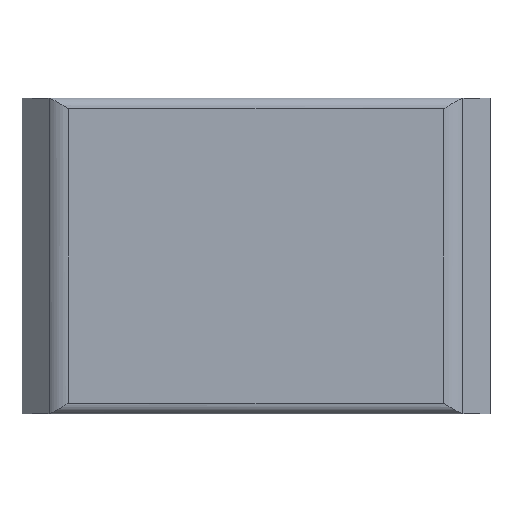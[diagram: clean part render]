
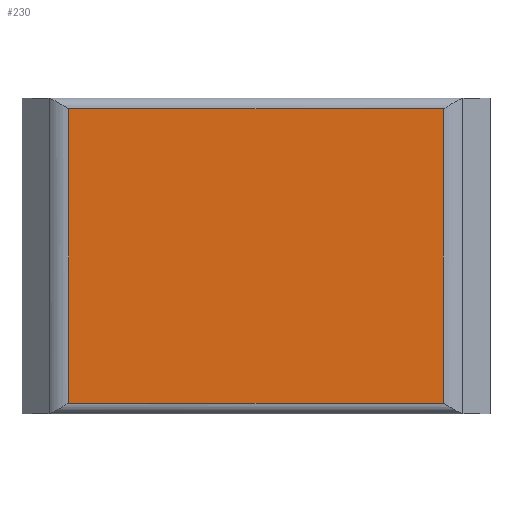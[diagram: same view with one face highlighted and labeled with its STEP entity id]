
A CAD part, front view. The second image highlights one B-rep face of the part: STEP entity #230.
In plain terms, the highlighted planar face has unit normal (0, -1, 0).
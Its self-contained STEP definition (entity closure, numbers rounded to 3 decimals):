
#48 = DIRECTION ( 'NONE',  ( 0., 0., -1. ) ) ;
#65 = LINE ( 'NONE', #933, #1226 ) ;
#73 = EDGE_CURVE ( 'NONE', #75, #1314, #65, .T. ) ;
#75 = VERTEX_POINT ( 'NONE', #635 ) ;
#92 = ORIENTED_EDGE ( 'NONE', *, *, #73, .F. ) ;
#102 = VECTOR ( 'NONE', #1234, 1000. ) ;
#217 = FACE_OUTER_BOUND ( 'NONE', #758, .T. ) ;
#225 = DIRECTION ( 'NONE',  ( 0., 0., 1. ) ) ;
#230 = ADVANCED_FACE ( 'NONE', ( #217 ), #1009, .F. ) ;
#391 = EDGE_CURVE ( 'NONE', #1125, #1314, #801, .T. ) ;
#409 = DIRECTION ( 'NONE',  ( 1., 0., 0. ) ) ;
#435 = VERTEX_POINT ( 'NONE', #1465 ) ;
#488 = VECTOR ( 'NONE', #1087, 1000. ) ;
#635 = CARTESIAN_POINT ( 'NONE',  ( 34.414, 0., 27. ) ) ;
#641 = CARTESIAN_POINT ( 'NONE',  ( -34.414, 0., 29. ) ) ;
#645 = AXIS2_PLACEMENT_3D ( 'NONE', #1271, #1003, #225 ) ;
#752 = VECTOR ( 'NONE', #409, 1000. ) ;
#758 = EDGE_LOOP ( 'NONE', ( #1358, #1253, #92, #994 ) ) ;
#780 = CARTESIAN_POINT ( 'NONE',  ( -34.414, 0., 27. ) ) ;
#801 = LINE ( 'NONE', #1610, #752 ) ;
#850 = LINE ( 'NONE', #780, #102 ) ;
#852 = CARTESIAN_POINT ( 'NONE',  ( -34.414, 0., -27. ) ) ;
#897 = EDGE_CURVE ( 'NONE', #75, #435, #850, .T. ) ;
#933 = CARTESIAN_POINT ( 'NONE',  ( 34.414, 0., 29. ) ) ;
#994 = ORIENTED_EDGE ( 'NONE', *, *, #897, .T. ) ;
#1003 = DIRECTION ( 'NONE',  ( 0., 1., 0. ) ) ;
#1009 = PLANE ( 'NONE',  #645 ) ;
#1087 = DIRECTION ( 'NONE',  ( 0., 0., -1. ) ) ;
#1125 = VERTEX_POINT ( 'NONE', #852 ) ;
#1215 = CARTESIAN_POINT ( 'NONE',  ( 34.414, 0., -27. ) ) ;
#1226 = VECTOR ( 'NONE', #48, 1000. ) ;
#1234 = DIRECTION ( 'NONE',  ( -1., 0., 0. ) ) ;
#1253 = ORIENTED_EDGE ( 'NONE', *, *, #391, .T. ) ;
#1271 = CARTESIAN_POINT ( 'NONE',  ( -34.414, 0., 29. ) ) ;
#1307 = LINE ( 'NONE', #641, #488 ) ;
#1314 = VERTEX_POINT ( 'NONE', #1215 ) ;
#1358 = ORIENTED_EDGE ( 'NONE', *, *, #1447, .T. ) ;
#1447 = EDGE_CURVE ( 'NONE', #435, #1125, #1307, .T. ) ;
#1465 = CARTESIAN_POINT ( 'NONE',  ( -34.414, 0., 27. ) ) ;
#1610 = CARTESIAN_POINT ( 'NONE',  ( 34.414, 0., -27. ) ) ;
